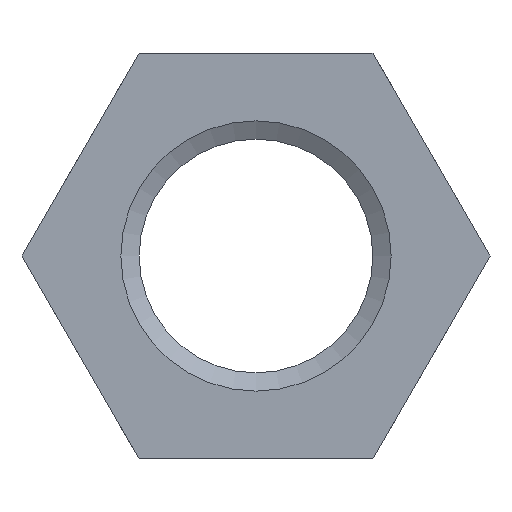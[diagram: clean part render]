
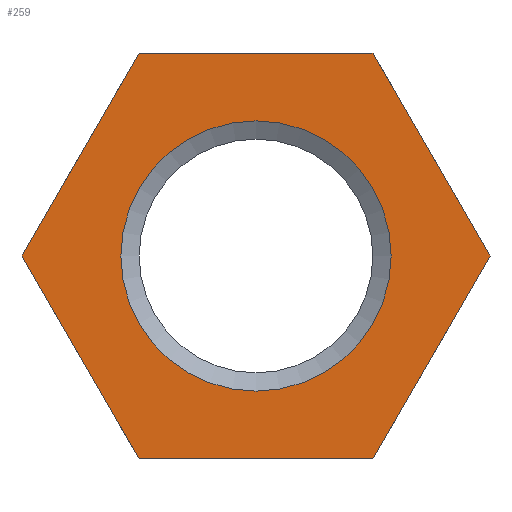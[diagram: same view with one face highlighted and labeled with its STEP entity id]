
A CAD part, front view. The second image highlights one B-rep face of the part: STEP entity #259.
In plain terms, the highlighted planar face has unit normal (0, -1, 0).
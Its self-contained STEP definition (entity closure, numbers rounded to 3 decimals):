
#14=LINE($,#435,#26);
#17=LINE($,#440,#29);
#19=LINE($,#444,#31);
#21=LINE($,#448,#33);
#23=LINE($,#452,#35);
#24=LINE($,#454,#36);
#26=VECTOR($,#334,17.321);
#29=VECTOR($,#339,17.321);
#31=VECTOR($,#343,17.321);
#33=VECTOR($,#347,17.321);
#35=VECTOR($,#351,17.321);
#36=VECTOR($,#354,17.321);
#43=PLANE($,#289);
#61=FACE_BOUND($,#98,.T.);
#62=FACE_BOUND($,#99,.T.);
#98=EDGE_LOOP($,(#222));
#99=EDGE_LOOP($,(#223,#224,#225,#226,#227,#228));
#102=CIRCLE($,#265,10.);
#112=VERTEX_POINT($,#361);
#128=VERTEX_POINT($,#432);
#129=VERTEX_POINT($,#434);
#130=VERTEX_POINT($,#438);
#131=VERTEX_POINT($,#442);
#132=VERTEX_POINT($,#446);
#133=VERTEX_POINT($,#450);
#134=EDGE_CURVE($,#112,#112,#102,.T.);
#157=EDGE_CURVE($,#129,#128,#14,.T.);
#160=EDGE_CURVE($,#128,#130,#17,.T.);
#162=EDGE_CURVE($,#130,#131,#19,.T.);
#164=EDGE_CURVE($,#131,#132,#21,.T.);
#166=EDGE_CURVE($,#132,#133,#23,.T.);
#167=EDGE_CURVE($,#133,#129,#24,.T.);
#222=ORIENTED_EDGE($,*,*,#134,.T.);
#223=ORIENTED_EDGE($,*,*,#162,.T.);
#224=ORIENTED_EDGE($,*,*,#164,.T.);
#225=ORIENTED_EDGE($,*,*,#166,.T.);
#226=ORIENTED_EDGE($,*,*,#167,.T.);
#227=ORIENTED_EDGE($,*,*,#157,.T.);
#228=ORIENTED_EDGE($,*,*,#160,.T.);
#259=ADVANCED_FACE($,(#61,#62),#43,.T.);
#265=AXIS2_PLACEMENT_3D($,#362,#295,#296);
#289=AXIS2_PLACEMENT_3D($,#455,#355,#356);
#295=DIRECTION('center_axis',(0.,1.,0.));
#296=DIRECTION('ref_axis',(-1.,0.,0.));
#334=DIRECTION($,(-1.,0.,0.));
#339=DIRECTION($,(-0.5,0.,-0.866));
#343=DIRECTION($,(0.5,0.,-0.866));
#347=DIRECTION($,(1.,0.,0.));
#351=DIRECTION($,(0.5,0.,0.866));
#354=DIRECTION($,(-0.5,0.,0.866));
#355=DIRECTION('center_axis',(0.,-1.,0.));
#356=DIRECTION('ref_axis',(0.,0.,-1.));
#361=CARTESIAN_POINT('',(-10.,0.,0.));
#362=CARTESIAN_POINT('Origin',(0.,0.,0.));
#432=CARTESIAN_POINT('',(-8.66,0.,15.));
#434=CARTESIAN_POINT('',(8.66,0.,15.));
#435=CARTESIAN_POINT($,(8.66,0.,15.));
#438=CARTESIAN_POINT('',(-17.321,0.,0.));
#440=CARTESIAN_POINT($,(-8.66,0.,15.));
#442=CARTESIAN_POINT('',(-8.66,0.,-15.));
#444=CARTESIAN_POINT($,(-17.321,0.,0.));
#446=CARTESIAN_POINT('',(8.66,0.,-15.));
#448=CARTESIAN_POINT($,(-8.66,0.,-15.));
#450=CARTESIAN_POINT('',(17.321,0.,0.));
#452=CARTESIAN_POINT($,(8.66,0.,-15.));
#454=CARTESIAN_POINT($,(17.321,0.,0.));
#455=CARTESIAN_POINT('Origin',(0.,0.,0.));
